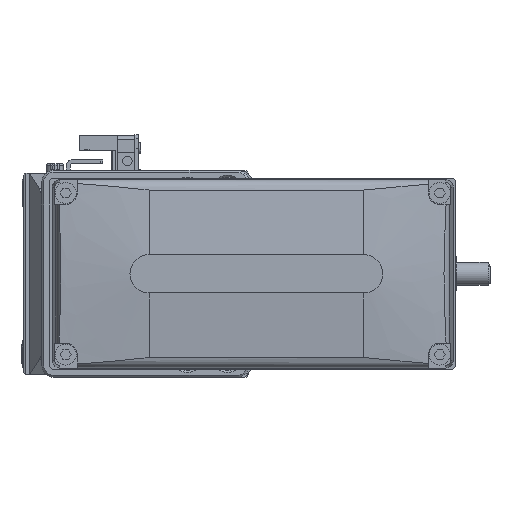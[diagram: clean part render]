
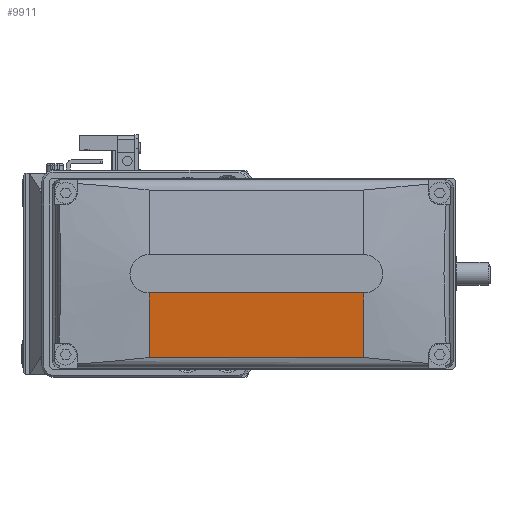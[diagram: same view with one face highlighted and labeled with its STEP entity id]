
A CAD part, left-side view. The second image highlights one B-rep face of the part: STEP entity #9911.
In plain terms, the highlighted planar face has unit normal (-0.996, 0, -0.087).
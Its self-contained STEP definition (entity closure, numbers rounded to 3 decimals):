
#144 = ORIENTED_EDGE ( 'NONE', *, *, #1820, .F. ) ;
#1820 = EDGE_CURVE ( 'NONE', #8576, #18958, #3081, .T. ) ;
#2407 = EDGE_LOOP ( 'NONE', ( #4834, #19447, #144, #18732 ) ) ;
#2474 = VECTOR ( 'NONE', #33450, 1000. ) ;
#3081 = LINE ( 'NONE', #30450, #33300 ) ;
#3850 = DIRECTION ( 'NONE',  ( 0.087, 0., -0.996 ) ) ;
#4834 = ORIENTED_EDGE ( 'NONE', *, *, #35652, .F. ) ;
#5694 = CARTESIAN_POINT ( 'NONE',  ( 43606.406, 28., -499000. ) ) ;
#7600 = VERTEX_POINT ( 'NONE', #21227 ) ;
#8576 = VERTEX_POINT ( 'NONE', #8692 ) ;
#8692 = CARTESIAN_POINT ( 'NONE',  ( -50., -28., -5. ) ) ;
#9271 = EDGE_CURVE ( 'NONE', #8576, #7600, #23962, .T. ) ;
#9364 = CARTESIAN_POINT ( 'NONE',  ( -48.525, -28., -21.861 ) ) ;
#9911 = ADVANCED_FACE ( 'NONE', ( #35405 ), #26434, .T. ) ;
#11987 = DIRECTION ( 'NONE',  ( -0.087, 0., 0.996 ) ) ;
#14076 = CARTESIAN_POINT ( 'NONE',  ( -48.525, 28., -21.861 ) ) ;
#18732 = ORIENTED_EDGE ( 'NONE', *, *, #9271, .T. ) ;
#18958 = VERTEX_POINT ( 'NONE', #9364 ) ;
#19228 = DIRECTION ( 'NONE',  ( 0., 1., 0. ) ) ;
#19447 = ORIENTED_EDGE ( 'NONE', *, *, #33221, .F. ) ;
#20247 = AXIS2_PLACEMENT_3D ( 'NONE', #32277, #29438, #11987 ) ;
#21227 = CARTESIAN_POINT ( 'NONE',  ( -50., 28., -5. ) ) ;
#23962 = LINE ( 'NONE', #36288, #2474 ) ;
#26434 = PLANE ( 'NONE',  #20247 ) ;
#26586 = VECTOR ( 'NONE', #19228, 1000. ) ;
#26877 = VECTOR ( 'NONE', #31999, 1000. ) ;
#29438 = DIRECTION ( 'NONE',  ( -0.996, 0., -0.087 ) ) ;
#29723 = LINE ( 'NONE', #31236, #26586 ) ;
#30450 = CARTESIAN_POINT ( 'NONE',  ( 43606.406, -28., -499000. ) ) ;
#31236 = CARTESIAN_POINT ( 'NONE',  ( -48.525, 128., -21.861 ) ) ;
#31999 = DIRECTION ( 'NONE',  ( -0.087, 0., 0.996 ) ) ;
#32277 = CARTESIAN_POINT ( 'NONE',  ( -50., 128., -5. ) ) ;
#33221 = EDGE_CURVE ( 'NONE', #18958, #34044, #29723, .T. ) ;
#33300 = VECTOR ( 'NONE', #3850, 1000. ) ;
#33450 = DIRECTION ( 'NONE',  ( 0., 1., 0. ) ) ;
#34044 = VERTEX_POINT ( 'NONE', #14076 ) ;
#34712 = LINE ( 'NONE', #5694, #26877 ) ;
#35405 = FACE_OUTER_BOUND ( 'NONE', #2407, .T. ) ;
#35652 = EDGE_CURVE ( 'NONE', #34044, #7600, #34712, .T. ) ;
#36288 = CARTESIAN_POINT ( 'NONE',  ( -50., 128., -5. ) ) ;
